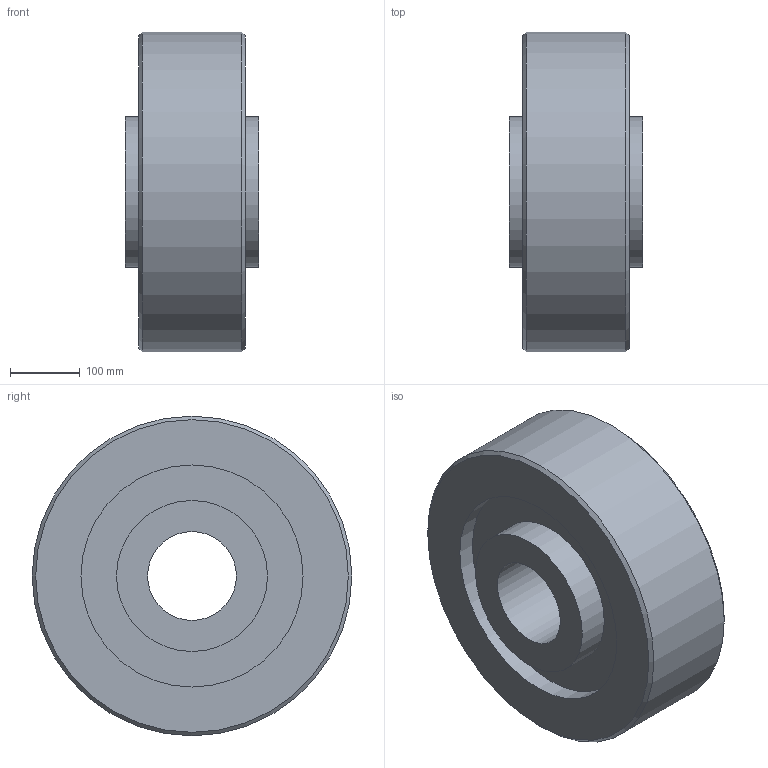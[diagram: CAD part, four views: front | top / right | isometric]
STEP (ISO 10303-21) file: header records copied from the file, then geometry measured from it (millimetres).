
FILE_DESCRIPTION((''),'1');
FILE_NAME('H:/図庫/国内ﾕﾆｯﾄ/ｶﾀﾛｸﾞ/ｸﾘｰﾌﾟﾌﾘｰ/ホームページ用ＣＡＤ図面/3D/update用', '2017-07-12T06:03:45',(''), (''), 'KCM Version 1.1.1442.0', 'Kubotek KeyCreator', '');
FILE_SCHEMA(('AUTOMOTIVE_DESIGN'));
Length unit declared in the file: inch
Bounding box: 190.5 x 457.2 x 457.2 mm (x, y, z)
Surface area: 700268.1 mm2 (no closed solid volume)
Topology: 0 solids, 14 shells, 14 faces, 36 edges, 28 vertices
Faces by surface type: plane 6, cylinder 6, cone 2
Full cylindrical faces by diameter (mm): 127 x1, 215.9 x2, 317.5 x2, 457.2 x1
Entity records: 482 total; most frequent: DIRECTION 94, CARTESIAN_POINT 79, ORIENTED_EDGE 44, AXIS2_PLACEMENT_3D 43, EDGE_CURVE 36, VERTEX_POINT 28, CIRCLE 28, EDGE_LOOP 20
